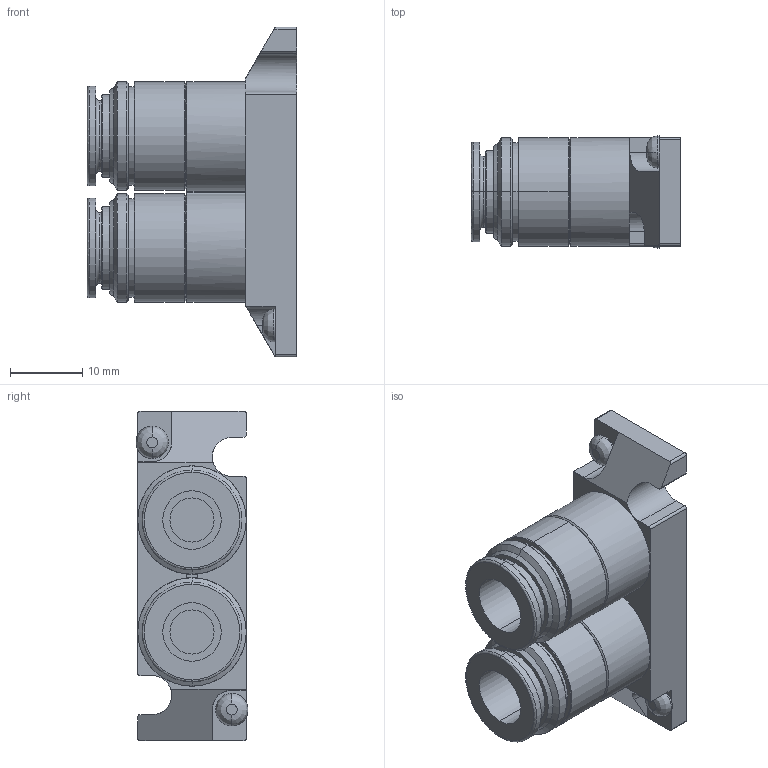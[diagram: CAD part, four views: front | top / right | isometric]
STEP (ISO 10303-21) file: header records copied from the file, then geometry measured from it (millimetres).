
FILE_DESCRIPTION( (''), '2;1');
FILE_NAME ('CVICAD02.12824.F10_Port-PJ_5133.stp','2020-09-01T14:06:52',(''),(''),'spGate 12.6.6','','');
FILE_SCHEMA (('AUTOMOTIVE_DESIGN'));
Length unit declared in the file: millimetre
Bounding box: 29 x 15.5 x 45.6 mm (x, y, z)
Volume: 9332.9 mm3; surface area: 5469.6 mm2
Topology: 1 solids, 1 shells, 140 faces, 318 edges, 194 vertices
Faces by surface type: cylinder 54, plane 46, bspline 40
Entity records: 6897 total; most frequent: CARTESIAN_POINT 1312, ORIENTED_EDGE 636, DIRECTION 586, COLOUR_RGB 459, PRESENTATION_STYLE_ASSIGNMENT 459, STYLED_ITEM 459, EDGE_CURVE 318, DRAUGHTING_PRE_DEFINED_CURVE_FONT 318
